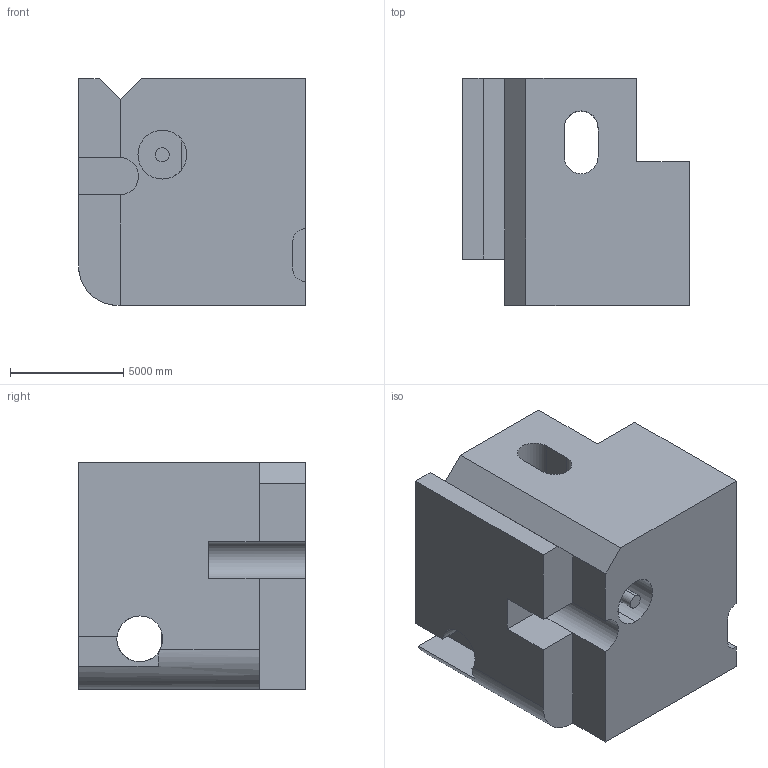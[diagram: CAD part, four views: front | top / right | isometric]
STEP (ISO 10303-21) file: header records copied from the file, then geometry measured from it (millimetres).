
FILE_DESCRIPTION (( 'STEP AP203' ), '1' );
FILE_NAME ('386.STEP', '2022-09-07T15:29:11', ( 'user' ), ( '' ), 'SwSTEP 2.0', 'SolidWorks 2021', '' );
FILE_SCHEMA (( 'CONFIG_CONTROL_DESIGN' ));
Length unit declared in the file: centimetre
Products named in the file (1): 386
Bounding box: 10000 x 10000 x 10000 mm (x, y, z)
Volume: 754886935454.4 mm3; surface area: 733769865.3 mm2
Topology: 1 solids, 1 shells, 46 faces, 141 edges, 94 vertices
Faces by surface type: plane 32, cylinder 14
Entity records: 2077 total; most frequent: CARTESIAN_POINT 705, ORIENTED_EDGE 282, DIRECTION 263, EDGE_CURVE 141, VECTOR 95, LINE 95, VERTEX_POINT 94, AXIS2_PLACEMENT_3D 84
